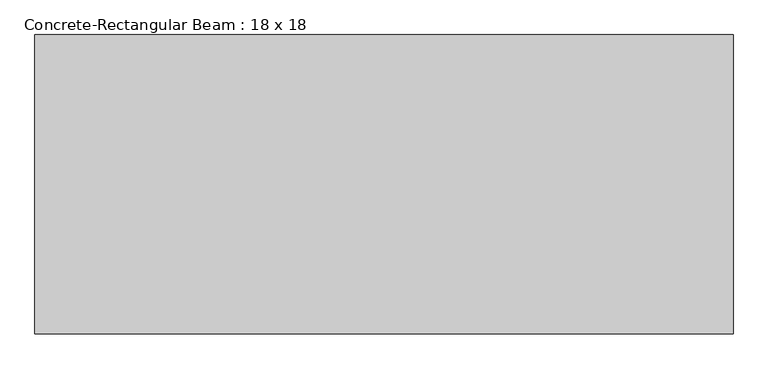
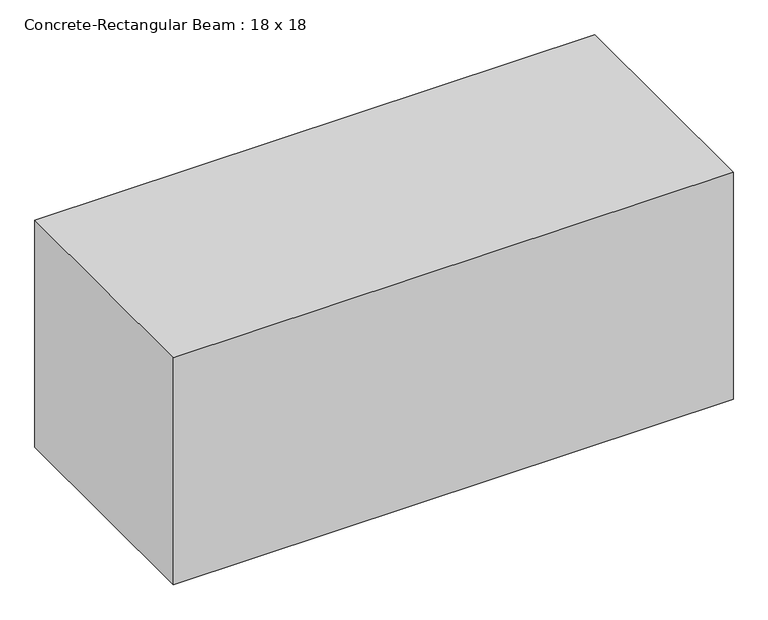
"""IFC4 building model written with IfcOpenShell, lengths in millimetres: beam geometry, Concrete-Rectangular Beam : 18 x 18."""

from ifc_helpers import new_model, si_unit, frame, origin, place, context, project, spatial, polyline, outline, extrude, source, transform, mapped, element, save


def concrete_rectangular_beam_18_x_18_4ba7165a(model_context):
    return source(origin(), model_context, "Body", "SweptSolid", [
        extrude(outline(polyline([(533.4, 228.6), (533.4, -228.6), (-533.4, -228.6), (-533.4, 228.6), (533.4, 228.6)])), frame((0.0, 0.0, -228.6), z_axis=(0.0, 0.0, 1.0), x_axis=(1.0, 0.0, 0.0)), (0.0, 0.0, 1.0), 457.2),
    ])


if __name__ == "__main__":
    model = new_model("IFC4")
    model_context = context("Model", 3, world=origin())
    ifc_project = project(units=[si_unit("LENGTHUNIT", "METRE", prefix="MILLI")], contexts=[model_context])
    site = spatial("IfcSite", under=ifc_project)
    building = spatial("IfcBuilding", under=site)
    placement = place(None, origin())
    concrete_rectangular_beam_18_x_18_shape = concrete_rectangular_beam_18_x_18_4ba7165a(model_context)
    element("IfcBeam", 1, ObjectType="Concrete-Rectangular Beam : 18 x 18", at=placement, inside=building, context=model_context, shape_type="MappedRepresentation", body=[
        mapped(concrete_rectangular_beam_18_x_18_shape, transform((0.0, 0.0, 0.0), x_axis=(1.0, 0.0, 0.0), y_axis=(0.0, 1.0, 0.0), z_axis=(0.0, 0.0, 1.0))),
    ])
    save(model, "model.ifc")
